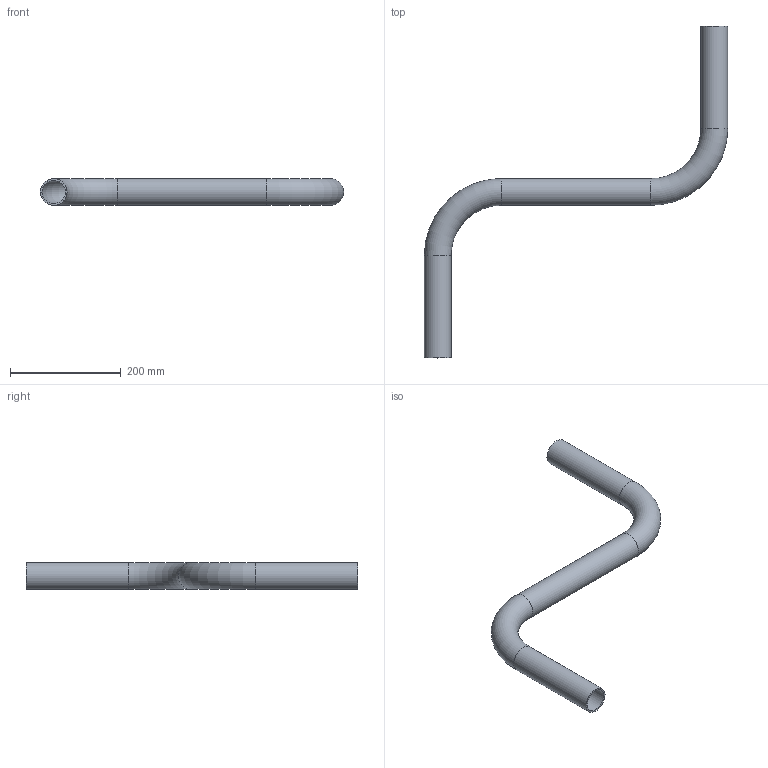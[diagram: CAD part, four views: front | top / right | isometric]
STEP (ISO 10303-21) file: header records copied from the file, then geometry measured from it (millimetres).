
FILE_DESCRIPTION (( 'STEP AP203' ), '1' );
FILE_NAME ('TK048.S.0300.0500.0300.STEP', '2026-07-30T05:41:58', ( '' ), ( '' ), 'SwSTEP 2.0', 'SolidWorks 2022', '' );
FILE_SCHEMA (( 'CONFIG_CONTROL_DESIGN' ));
Length unit declared in the file: millimetre
Products named in the file (1): TK048.S.0300.0500.0300
Bounding box: 548.3 x 600 x 48.3 mm (x, y, z)
Volume: 427490.3 mm3; surface area: 285847.4 mm2
Topology: 1 solids, 1 shells, 12 faces, 22 edges, 12 vertices
Faces by surface type: cylinder 6, torus 4, plane 2
Full cylindrical faces by diameter (mm): 42.3 x3, 48.3 x3
Entity records: 325 total; most frequent: DIRECTION 50, CARTESIAN_POINT 37, AXIS2_PLACEMENT_3D 25, EDGE_LOOP 24, ORIENTED_EDGE 24, FACE_OUTER_BOUND 22, ADVANCED_FACE 12, CIRCLE 12
